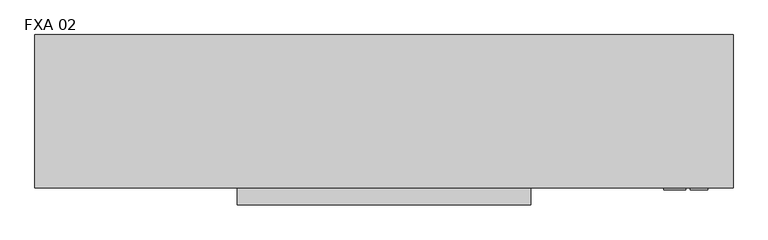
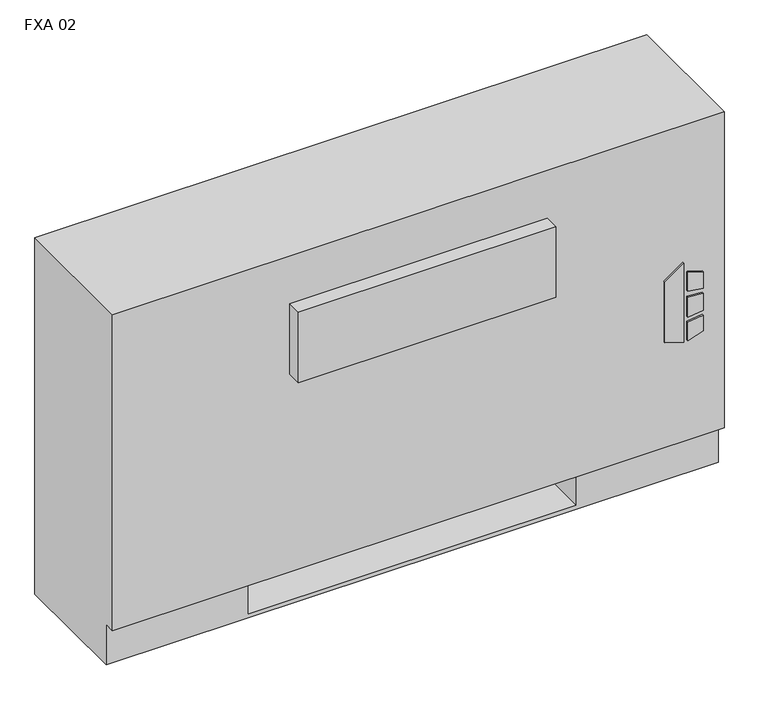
"""IFC4 building model written with IfcOpenShell, lengths in millimetres: proxy geometry, Vertical_Fan_Coil_Unit_-_FXA_-_IEC_-_4-Pipe_FS-FR_RH_2022 : FXA 02."""

from ifc_helpers import new_model, si_unit, point, frame, frame_2d, origin, place, context, project, spatial, polyline, circle_curve, trimmed, segment, composite_curve, outline, extrude, source, transform, mapped, element, save
from ifc_brep_helpers import plane_surface, revolved_surface, advanced_brep


def fxa_02_4a2c4ee7(model_context):
    return source(origin(), model_context, "Body", "SolidModel", [
        extrude(outline(polyline([(263.9480703, 569.9868862), (254.0, 602.1602728), (396.1709244, 602.1602728), (373.1489183, 569.9868862), (263.9480703, 569.9868862)])), frame((0.0, 12.7, 0.0), z_axis=(0.0, 1.0, 0.0), x_axis=(0.0, 0.0, 1.0)), (0.0, 0.0, 1.0), 3.175),
        extrude(outline(polyline([(342.9473557, 608.9186058), (339.7449632, 635.0), (368.9738042, 635.0), (377.0382193, 608.9186058), (342.9473557, 608.9186058)])), frame((0.0, 12.7, 0.0), z_axis=(0.0, 1.0, 0.0), x_axis=(0.0, 0.0, 1.0)), (0.0, 0.0, 1.0), 3.175),
        extrude(outline(polyline([(291.0838288, 635.0), (287.4183279, 608.9186058), (254.0, 608.9186058), (262.6342372, 635.0), (291.0838288, 635.0)])), frame((0.0, 12.7, 0.0), z_axis=(0.0, 1.0, 0.0), x_axis=(0.0, 0.0, 1.0)), (0.0, 0.0, 1.0), 3.175),
        extrude(outline(polyline([(330.3989903, 635.0), (332.6808166, 608.9186058), (296.7432681, 608.9186058), (299.4845331, 635.0), (330.3989903, 635.0)])), frame((0.0, 12.7, 0.0), z_axis=(0.0, 1.0, 0.0), x_axis=(0.0, 0.0, 1.0)), (0.0, 0.0, 1.0), 3.175),
        extrude(outline(polyline([(-247.65, 81.534), (-247.65, 223.266), (-127.0, 223.266), (-127.0, 81.534), (-247.65, 81.534)])), frame((0.0, 0.0, 327.025), z_axis=(0.0, 0.0, 1.0), x_axis=(1.0, 0.0, 0.0)), (0.0, 0.0, 1.0), 260.35),
        extrude(outline(composite_curve([segment(trimmed(circle_curve(frame_2d((495.3, 130.175)), 9.525), [point((485.775, 130.175))], [point((504.825, 130.175))], False, "CARTESIAN"), True, "CONTINUOUS"), segment(trimmed(circle_curve(frame_2d((495.3, 130.175)), 9.525), [point((504.825, 130.175))], [point((485.775, 130.175))], False, "CARTESIAN"), True, "CONTINUOUS")], self_intersect=False)), frame((0.0, 0.0, 101.6), z_axis=(0.0, 0.0, 1.0), x_axis=(1.0, 0.0, 0.0)), (0.0, 0.0, 1.0), 25.4),
        extrude(outline(polyline([(596.9, 196.85), (596.9, 63.5), (431.8, 63.5), (431.8, 196.85), (596.9, 196.85)])), frame((0.0, 0.0, 127.0), z_axis=(0.0, 0.0, 1.0), x_axis=(1.0, 0.0, 0.0)), (0.0, 0.0, 1.0), 50.8),
        extrude(outline(polyline([(371.475, -9.525), (-66.675, -9.525), (-66.675, 15.875), (371.475, 15.875), (371.475, -9.525)])), frame((0.0, 0.0, 428.625), z_axis=(0.0, 0.0, 1.0), x_axis=(1.0, 0.0, 0.0)), (0.0, 0.0, 1.0), 127.0),
        extrude(outline(composite_curve([segment(trimmed(circle_curve(frame_2d((117.475, 472.44)), 7.9375), [point((117.475, 480.3775))], [point((117.475, 464.5025))], False, "CARTESIAN"), True, "CONTINUOUS"), segment(trimmed(circle_curve(frame_2d((117.475, 472.44)), 7.9375), [point((117.475, 464.5025))], [point((117.475, 480.3775))], False, "CARTESIAN"), True, "CONTINUOUS")], self_intersect=False)), frame((431.8, 0.0, 0.0), z_axis=(1.0, 0.0, 0.0), x_axis=(0.0, 1.0, 0.0)), (0.0, 0.0, 1.0), 50.8),
        extrude(outline(composite_curve([segment(trimmed(circle_curve(frame_2d((164.0586, 445.897)), 7.9375), [point((164.0586, 453.8345))], [point((164.0586, 437.9595))], False, "CARTESIAN"), True, "CONTINUOUS"), segment(trimmed(circle_curve(frame_2d((164.0586, 445.897)), 7.9375), [point((164.0586, 437.9595))], [point((164.0586, 453.8345))], False, "CARTESIAN"), True, "CONTINUOUS")], self_intersect=False)), frame((431.8, 0.0, 0.0), z_axis=(1.0, 0.0, 0.0), x_axis=(0.0, 1.0, 0.0)), (0.0, 0.0, 1.0), 50.8),
        extrude(outline(composite_curve([segment(trimmed(circle_curve(frame_2d((130.175, 554.99)), 7.9502), [point((130.175, 562.9402))], [point((130.175, 547.0398))], False, "CARTESIAN"), True, "CONTINUOUS"), segment(trimmed(circle_curve(frame_2d((130.175, 554.99)), 7.9502), [point((130.175, 547.0398))], [point((130.175, 562.9402))], False, "CARTESIAN"), True, "CONTINUOUS")], self_intersect=False)), frame((431.8, 0.0, 0.0), z_axis=(1.0, 0.0, 0.0), x_axis=(0.0, 1.0, 0.0)), (0.0, 0.0, 1.0), 50.8),
        extrude(outline(composite_curve([segment(trimmed(circle_curve(frame_2d((53.975, 416.56)), 7.9502), [point((53.975, 424.5102))], [point((53.975, 408.6098))], False, "CARTESIAN"), True, "CONTINUOUS"), segment(trimmed(circle_curve(frame_2d((53.975, 416.56)), 7.9502), [point((53.975, 408.6098))], [point((53.975, 424.5102))], False, "CARTESIAN"), True, "CONTINUOUS")], self_intersect=False)), frame((431.8, 0.0, 0.0), z_axis=(1.0, 0.0, 0.0), x_axis=(0.0, 1.0, 0.0)), (0.0, 0.0, 1.0), 50.8),
        advanced_brep(
        [(673.1, 244.475, 641.35), (-368.3, 244.475, 641.35), (-368.3, 15.875, 641.35), (673.1, 15.875, 641.35), (-368.3, 244.475, 0.0), (673.1, 244.475, 0.0), (673.1, 34.925, 0.0), (-368.3, 34.925, 0.0), (431.8, 244.475, 73.025), (660.4, 244.475, 73.025), (660.4, 244.475, 628.65), (431.8, 244.475, 628.65), (431.8, 244.475, 414.8650565), (460.375, 244.475, 414.8650565), (460.375, 244.475, 385.2349435), (431.8, 244.475, 385.2349435), (431.8, 244.475, 287.3375), (460.375, 244.475, 287.3375), (460.375, 244.475, 258.7625), (431.8, 244.475, 258.7625), (431.8, 244.475, 141.2875), (460.375, 244.475, 141.2875), (460.375, 244.475, 112.7125), (431.8, 244.475, 112.7125), (-127.0, 244.475, 628.65), (-355.6, 244.475, 628.65), (-355.6, 244.475, 73.025), (-127.0, 244.475, 73.025), (-127.0, 244.475, 112.7125), (-155.575, 244.475, 112.7125), (-155.575, 244.475, 141.2875), (-127.0, 244.475, 141.2875), (-127.0, 244.475, 258.7625), (-155.575, 244.475, 258.7625), (-155.575, 244.475, 287.3375), (-127.0, 244.475, 287.3375), (-127.0, 244.475, 385.2349435), (-155.575, 244.475, 385.2349435), (-155.575, 244.475, 414.8650565), (-127.0, 244.475, 414.8650565), (450.0626, 244.475, 127.0), (438.9374, 244.475, 127.0), (450.0626, 244.475, 400.05), (438.9374, 244.475, 400.05), (450.0626, 244.475, 273.05), (438.9374, 244.475, 273.05), (-134.1374, 244.475, 127.0), (-145.2626, 244.475, 127.0), (-134.1374, 244.475, 273.05), (-145.2626, 244.475, 273.05), (-134.1374, 244.475, 400.05), (-145.2626, 244.475, 400.05), (-368.3, 34.925, 73.025), (-368.3, 15.875, 73.025), (673.1, 15.875, 73.025), (673.1, 34.925, 73.025), (-127.0, 34.925, 73.025), (-127.0, 219.075, 73.025), (431.8, 219.075, 73.025), (431.8, 34.925, 73.025), (431.8, 34.925, 6.35), (-127.0, 34.925, 6.35), (431.8, 41.275, 628.65), (660.4, 41.275, 628.65), (660.4, 41.275, 73.025), (431.8, 41.275, 73.025), (-127.0, 41.275, 628.65), (-127.0, 41.275, 73.025), (-355.6, 41.275, 73.025), (-355.6, 41.275, 628.65), (431.8, 219.075, 73.025), (431.8, 238.125, 112.7125), (431.8, 238.125, 141.2875), (431.8, 238.125, 258.7625), (431.8, 238.125, 287.3375), (431.8, 238.125, 385.2349435), (431.8, 238.125, 414.8650565), (-127.0, 219.075, 73.025), (-127.0, 238.125, 414.8650565), (-127.0, 238.125, 385.2349435), (-127.0, 238.125, 287.3375), (-127.0, 238.125, 258.7625), (-127.0, 238.125, 141.2875), (-127.0, 238.125, 112.7125), (-127.0, 219.075, 6.35), (431.8, 219.075, 6.35), (460.375, 238.125, 112.7125), (460.375, 238.125, 141.2875), (438.9374, 238.125, 127.0), (450.0626, 238.125, 127.0), (460.375, 238.125, 258.7625), (460.375, 238.125, 287.3375), (438.9374, 238.125, 273.05), (450.0626, 238.125, 273.05), (460.375, 238.125, 385.2349435), (460.375, 238.125, 414.8650565), (438.9374, 238.125, 400.05), (450.0626, 238.125, 400.05), (-155.575, 238.125, 141.2875), (-155.575, 238.125, 112.7125), (-145.2626, 238.125, 127.0), (-134.1374, 238.125, 127.0), (-155.575, 238.125, 287.3375), (-155.575, 238.125, 258.7625), (-145.2626, 238.125, 273.05), (-134.1374, 238.125, 273.05), (-155.575, 238.125, 414.8650565), (-155.575, 238.125, 385.2349435), (-145.2626, 238.125, 400.05), (-134.1374, 238.125, 400.05)],
        [
            (0, 1),
            (1, 2),
            (2, 3),
            (3, 0),
            (4, 5),
            (5, 6),
            (6, 7),
            (7, 4),
            (0, 5),
            (4, 1),
            (8, 9),
            (9, 10),
            (10, 11),
            (11, 12),
            (12, 13),
            (13, 14),
            (14, 15),
            (15, 16),
            (16, 17),
            (17, 18),
            (18, 19),
            (19, 20),
            (20, 21),
            (21, 22),
            (22, 23),
            (23, 8),
            (24, 25),
            (25, 26),
            (26, 27),
            (27, 28),
            (28, 29),
            (29, 30),
            (30, 31),
            (31, 32),
            (32, 33),
            (33, 34),
            (34, 35),
            (35, 36),
            (36, 37),
            (37, 38),
            (38, 39),
            (39, 24),
            (40, 41, circle_curve(frame((444.5, 244.475, 127.0), z_axis=(0.0, -1.0, 0.0), x_axis=(-1.0, 0.0, 0.0)), 5.5626)),
            (41, 40, circle_curve(frame((444.5, 244.475, 127.0), z_axis=(0.0, -1.0, 0.0), x_axis=(-1.0, 0.0, 0.0)), 5.5626)),
            (42, 43, circle_curve(frame((444.5, 244.475, 400.05), z_axis=(0.0, -1.0, 0.0), x_axis=(-1.0, 0.0, 0.0)), 5.5626)),
            (43, 42, circle_curve(frame((444.5, 244.475, 400.05), z_axis=(0.0, -1.0, 0.0), x_axis=(-1.0, 0.0, 0.0)), 5.5626)),
            (44, 45, circle_curve(frame((444.5, 244.475, 273.05), z_axis=(0.0, -1.0, 0.0), x_axis=(-1.0, 0.0, 0.0)), 5.5626)),
            (45, 44, circle_curve(frame((444.5, 244.475, 273.05), z_axis=(0.0, -1.0, 0.0), x_axis=(-1.0, 0.0, 0.0)), 5.5626)),
            (46, 47, circle_curve(frame((-139.7, 244.475, 127.0), z_axis=(0.0, -1.0, 0.0), x_axis=(-1.0, 0.0, 0.0)), 5.5626)),
            (47, 46, circle_curve(frame((-139.7, 244.475, 127.0), z_axis=(0.0, -1.0, 0.0), x_axis=(-1.0, 0.0, 0.0)), 5.5626)),
            (48, 49, circle_curve(frame((-139.7, 244.475, 273.05), z_axis=(0.0, -1.0, 0.0), x_axis=(-1.0, 0.0, 0.0)), 5.5626)),
            (49, 48, circle_curve(frame((-139.7, 244.475, 273.05), z_axis=(0.0, -1.0, 0.0), x_axis=(-1.0, 0.0, 0.0)), 5.5626)),
            (50, 51, circle_curve(frame((-139.7, 244.475, 400.05), z_axis=(0.0, -1.0, 0.0), x_axis=(-1.0, 0.0, 0.0)), 5.5626)),
            (51, 50, circle_curve(frame((-139.7, 244.475, 400.05), z_axis=(0.0, -1.0, 0.0), x_axis=(-1.0, 0.0, 0.0)), 5.5626)),
            (7, 52),
            (52, 53),
            (53, 2),
            (53, 54),
            (54, 3),
            (54, 55),
            (55, 6),
            (52, 56),
            (56, 57),
            (57, 58),
            (58, 59),
            (59, 55),
            (59, 60),
            (60, 61),
            (61, 56),
            (62, 63),
            (63, 64),
            (64, 65),
            (65, 62),
            (66, 67),
            (67, 68),
            (68, 69),
            (69, 66),
            (65, 70),
            (70, 8),
            (23, 71),
            (71, 72),
            (72, 20),
            (19, 73),
            (73, 74),
            (74, 16),
            (15, 75),
            (75, 76),
            (76, 12),
            (11, 62),
            (64, 9),
            (63, 10),
            (69, 25),
            (24, 66),
            (68, 26),
            (67, 77),
            (77, 27),
            (39, 78),
            (78, 79),
            (79, 36),
            (35, 80),
            (80, 81),
            (81, 32),
            (31, 82),
            (82, 83),
            (83, 28),
            (57, 84),
            (84, 85),
            (85, 58),
            (85, 60),
            (84, 61),
            (71, 86),
            (86, 87),
            (87, 72),
            (88, 89, circle_curve(frame((444.5, 238.125, 127.0), z_axis=(0.0, 1.0, 0.0), x_axis=(-1.0, 0.0, 0.0)), 5.5626)),
            (89, 88, circle_curve(frame((444.5, 238.125, 127.0), z_axis=(0.0, 1.0, 0.0), x_axis=(-1.0, 0.0, 0.0)), 5.5626)),
            (73, 90),
            (90, 91),
            (91, 74),
            (92, 93, circle_curve(frame((444.5, 238.125, 273.05), z_axis=(0.0, 1.0, 0.0), x_axis=(-1.0, 0.0, 0.0)), 5.5626)),
            (93, 92, circle_curve(frame((444.5, 238.125, 273.05), z_axis=(0.0, 1.0, 0.0), x_axis=(-1.0, 0.0, 0.0)), 5.5626)),
            (75, 94),
            (94, 95),
            (95, 76),
            (96, 97, circle_curve(frame((444.5, 238.125, 400.05), z_axis=(0.0, 1.0, 0.0), x_axis=(-1.0, 0.0, 0.0)), 5.5626)),
            (97, 96, circle_curve(frame((444.5, 238.125, 400.05), z_axis=(0.0, 1.0, 0.0), x_axis=(-1.0, 0.0, 0.0)), 5.5626)),
            (98, 99),
            (99, 83),
            (82, 98),
            (100, 101, circle_curve(frame((-139.7, 238.125, 127.0), z_axis=(0.0, 1.0, 0.0), x_axis=(-1.0, 0.0, 0.0)), 5.5626)),
            (101, 100, circle_curve(frame((-139.7, 238.125, 127.0), z_axis=(0.0, 1.0, 0.0), x_axis=(-1.0, 0.0, 0.0)), 5.5626)),
            (102, 103),
            (103, 81),
            (80, 102),
            (104, 105, circle_curve(frame((-139.7, 238.125, 273.05), z_axis=(0.0, 1.0, 0.0), x_axis=(-1.0, 0.0, 0.0)), 5.5626)),
            (105, 104, circle_curve(frame((-139.7, 238.125, 273.05), z_axis=(0.0, 1.0, 0.0), x_axis=(-1.0, 0.0, 0.0)), 5.5626)),
            (106, 107),
            (107, 79),
            (78, 106),
            (108, 109, circle_curve(frame((-139.7, 238.125, 400.05), z_axis=(0.0, 1.0, 0.0), x_axis=(-1.0, 0.0, 0.0)), 5.5626)),
            (109, 108, circle_curve(frame((-139.7, 238.125, 400.05), z_axis=(0.0, 1.0, 0.0), x_axis=(-1.0, 0.0, 0.0)), 5.5626)),
            (87, 21),
            (86, 22),
            (91, 17),
            (90, 18),
            (95, 13),
            (94, 14),
            (30, 98),
            (99, 29),
            (34, 102),
            (103, 33),
            (38, 106),
            (107, 37),
            (88, 41),
            (40, 89),
            (96, 43),
            (42, 97),
            (92, 45),
            (44, 93),
            (100, 47),
            (46, 101),
            (104, 49),
            (48, 105),
            (108, 51),
            (50, 109),
        ],
        [
            plane_surface(frame((-368.3, 244.475, 641.35), z_axis=(0.0, 0.0, 1.0), x_axis=(-1.0, 0.0, 0.0))),
            plane_surface(frame((-368.3, 244.475, 0.0), z_axis=(0.0, 0.0, -1.0), x_axis=(1.0, 0.0, 0.0))),
            plane_surface(frame((673.1, 244.475, 641.35), z_axis=(0.0, 1.0, 0.0), x_axis=(0.0, 0.0, -1.0))),
            plane_surface(frame((-368.3, 244.475, 641.35), z_axis=(-1.0, 0.0, 0.0), x_axis=(0.0, 0.0, -1.0))),
            plane_surface(frame((-368.3, 15.875, 641.35), z_axis=(0.0, -1.0, 0.0), x_axis=(0.0, 0.0, -1.0))),
            plane_surface(frame((673.1, 15.875, 641.35), z_axis=(1.0, 0.0, 0.0), x_axis=(0.0, 0.0, -1.0))),
            plane_surface(frame((-368.3, 15.875, 73.025), z_axis=(0.0, 0.0, -1.0), x_axis=(1.0, 0.0, 0.0))),
            plane_surface(frame((-368.3, 34.925, 73.025), z_axis=(0.0, -1.0, 0.0), x_axis=(1.0, 0.0, 0.0))),
            plane_surface(frame((431.8, 41.275, 628.65), z_axis=(0.0, 1.0, 0.0), x_axis=(0.0, 0.0, -1.0))),
            plane_surface(frame((431.8, 41.275, 628.65), z_axis=(1.0, 0.0, 0.0), x_axis=(0.0, 1.0, 0.0))),
            plane_surface(frame((431.8, 41.275, 73.025), z_axis=(0.0, 0.0, 1.0), x_axis=(0.0, 1.0, 0.0))),
            plane_surface(frame((660.4, 41.275, 73.025), z_axis=(-1.0, 0.0, 0.0), x_axis=(0.0, 1.0, 0.0))),
            plane_surface(frame((660.4, 41.275, 628.65), z_axis=(0.0, 0.0, -1.0), x_axis=(0.0, 1.0, 0.0))),
            plane_surface(frame((-127.0, 41.275, 628.65), z_axis=(0.0, 0.0, -1.0), x_axis=(0.0, 1.0, 0.0))),
            plane_surface(frame((-355.6, 41.275, 628.65), z_axis=(1.0, 0.0, 0.0), x_axis=(0.0, 1.0, 0.0))),
            plane_surface(frame((-355.6, 41.275, 73.025), z_axis=(0.0, 0.0, 1.0), x_axis=(0.0, 1.0, 0.0))),
            plane_surface(frame((-127.0, 41.275, 73.025), z_axis=(-1.0, 0.0, 0.0), x_axis=(0.0, 1.0, 0.0))),
            plane_surface(frame((431.8, 219.075, 73.025), z_axis=(0.0, -1.0, 0.0), x_axis=(0.0, 0.0, -1.0))),
            plane_surface(frame((431.8, 219.075, 73.025), z_axis=(-1.0, 0.0, 0.0), x_axis=(0.0, -1.0, 0.0))),
            plane_surface(frame((431.8, 219.075, 6.35), z_axis=(0.0, 0.0, 1.0), x_axis=(0.0, -1.0, 0.0))),
            plane_surface(frame((-127.0, 219.075, 6.35), z_axis=(1.0, 0.0, 0.0), x_axis=(0.0, -1.0, 0.0))),
            plane_surface(frame((460.375, 238.125, 141.2875), z_axis=(0.0, -1.0, 0.0), x_axis=(-1.0, 0.0, 0.0))),
            plane_surface(frame((431.8, 244.475, 141.2875), z_axis=(0.0, 0.0, 1.0), x_axis=(0.0, -1.0, 0.0))),
            plane_surface(frame((460.375, 244.475, 141.2875), z_axis=(1.0, 0.0, 0.0), x_axis=(0.0, -1.0, 0.0))),
            plane_surface(frame((460.375, 244.475, 112.7125), z_axis=(0.0, 0.0, -1.0), x_axis=(0.0, -1.0, 0.0))),
            plane_surface(frame((431.8, 244.475, 287.3375), z_axis=(0.0, 0.0, 1.0), x_axis=(0.0, -1.0, 0.0))),
            plane_surface(frame((460.375, 244.475, 287.3375), z_axis=(1.0, 0.0, 0.0), x_axis=(0.0, -1.0, 0.0))),
            plane_surface(frame((460.375, 244.475, 258.7625), z_axis=(0.0, 0.0, -1.0), x_axis=(0.0, -1.0, 0.0))),
            plane_surface(frame((431.8, 244.475, 414.8650565), z_axis=(0.0, 0.0, 1.0), x_axis=(0.0, -1.0, 0.0))),
            plane_surface(frame((460.375, 244.475, 414.8650565), z_axis=(1.0, 0.0, 0.0), x_axis=(0.0, -1.0, 0.0))),
            plane_surface(frame((460.375, 244.475, 385.2349435), z_axis=(0.0, 0.0, -1.0), x_axis=(0.0, -1.0, 0.0))),
            plane_surface(frame((-155.575, 244.475, 141.2875), z_axis=(0.0, 0.0, 1.0), x_axis=(0.0, -1.0, 0.0))),
            plane_surface(frame((-127.0, 244.475, 112.7125), z_axis=(0.0, 0.0, -1.0), x_axis=(0.0, -1.0, 0.0))),
            plane_surface(frame((-155.575, 244.475, 112.7125), z_axis=(-1.0, 0.0, 0.0), x_axis=(0.0, -1.0, 0.0))),
            plane_surface(frame((-155.575, 244.475, 287.3375), z_axis=(0.0, 0.0, 1.0), x_axis=(0.0, -1.0, 0.0))),
            plane_surface(frame((-127.0, 244.475, 258.7625), z_axis=(0.0, 0.0, -1.0), x_axis=(0.0, -1.0, 0.0))),
            plane_surface(frame((-155.575, 244.475, 258.7625), z_axis=(-1.0, 0.0, 0.0), x_axis=(0.0, -1.0, 0.0))),
            plane_surface(frame((-155.575, 244.475, 414.8650565), z_axis=(0.0, 0.0, 1.0), x_axis=(0.0, -1.0, 0.0))),
            plane_surface(frame((-127.0, 244.475, 385.2349435), z_axis=(0.0, 0.0, -1.0), x_axis=(0.0, -1.0, 0.0))),
            plane_surface(frame((-155.575, 244.475, 385.2349435), z_axis=(-1.0, 0.0, 0.0), x_axis=(0.0, -1.0, 0.0))),
            revolved_surface(polyline([(438.9374, 238.125, 127.0), (438.9374, 244.475, 127.0)]), (444.5, 244.475, 127.0), (0.0, -1.0, 0.0)),
            revolved_surface(polyline([(438.9374, 238.125, 400.05), (438.9374, 244.475, 400.05)]), (444.5, 244.475, 400.05), (0.0, -1.0, 0.0)),
            revolved_surface(polyline([(438.9374, 238.125, 273.05), (438.9374, 244.475, 273.05)]), (444.5, 244.475, 273.05), (0.0, -1.0, 0.0)),
            revolved_surface(polyline([(-145.2626, 238.125, 127.0), (-145.2626, 244.475, 127.0)]), (-139.7, 244.475, 127.0), (0.0, -1.0, 0.0)),
            revolved_surface(polyline([(-145.2626, 238.125, 273.05), (-145.2626, 244.475, 273.05)]), (-139.7, 244.475, 273.05), (0.0, -1.0, 0.0)),
            revolved_surface(polyline([(-145.2626, 238.125, 400.05), (-145.2626, 244.475, 400.05)]), (-139.7, 244.475, 400.05), (0.0, -1.0, 0.0)),
        ],
        [
            (0, [[1, 2, 3, 4]]),
            (1, [[5, 6, 7, 8]]),
            (2, [[-1, 9, -5, 10], [11, 12, 13, 14, 15, 16, 17, 18, 19, 20, 21, 22, 23, 24, 25, 26], [27, 28, 29, 30, 31, 32, 33, 34, 35, 36, 37, 38, 39, 40, 41, 42], [43, 44], [45, 46], [47, 48], [49, 50], [51, 52], [53, 54]]),
            (3, [[-2, -10, -8, 55, 56, 57]]),
            (4, [[-3, -57, 58, 59]]),
            (5, [[-4, -59, 60, 61, -6, -9]]),
            (6, [[-56, 62, 63, 64, 65, 66, -60, -58]]),
            (7, [[-7, -61, -66, 67, 68, 69, -62, -55]]),
            (8, [[70, 71, 72, 73]]),
            (8, [[74, 75, 76, 77]]),
            (9, [[-73, 78, 79, -26, 80, 81, 82, -22, 83, 84, 85, -18, 86, 87, 88, -14, 89]]),
            (10, [[-72, 90, -11, -79, -78]]),
            (11, [[-71, 91, -12, -90]]),
            (12, [[-70, -89, -13, -91]]),
            (13, [[-77, 92, -27, 93]]),
            (14, [[-76, 94, -28, -92]]),
            (15, [[-75, 95, 96, -29, -94]]),
            (16, [[-74, -93, -42, 97, 98, 99, -38, 100, 101, 102, -34, 103, 104, 105, -30, -96, -95]]),
            (17, [[-64, 106, 107, 108]]),
            (18, [[-108, 109, -67, -65]]),
            (19, [[-107, 110, -68, -109]]),
            (20, [[-106, -63, -69, -110]]),
            (21, [[111, 112, 113, -81], [114, 115]]),
            (21, [[116, 117, 118, -84], [119, 120]]),
            (21, [[121, 122, 123, -87], [124, 125]]),
            (21, [[126, 127, -104, 128], [129, 130]]),
            (21, [[131, 132, -101, 133], [134, 135]]),
            (21, [[136, 137, -98, 138], [139, 140]]),
            (22, [[-113, 141, -23, -82]]),
            (23, [[-112, 142, -24, -141]]),
            (24, [[-111, -80, -25, -142]]),
            (25, [[-118, 143, -19, -85]]),
            (26, [[-117, 144, -20, -143]]),
            (27, [[-116, -83, -21, -144]]),
            (28, [[-123, 145, -15, -88]]),
            (29, [[-122, 146, -16, -145]]),
            (30, [[-121, -86, -17, -146]]),
            (31, [[-128, -103, -33, 147]]),
            (32, [[-127, 148, -31, -105]]),
            (33, [[-126, -147, -32, -148]]),
            (34, [[-133, -100, -37, 149]]),
            (35, [[-132, 150, -35, -102]]),
            (36, [[-131, -149, -36, -150]]),
            (37, [[-138, -97, -41, 151]]),
            (38, [[-137, 152, -39, -99]]),
            (39, [[-136, -151, -40, -152]]),
            (40, [[153, -43, 154, -114]]),
            (40, [[-153, -115, -154, -44]]),
            (41, [[155, -45, 156, -124]]),
            (41, [[-155, -125, -156, -46]]),
            (42, [[157, -47, 158, -119]]),
            (42, [[-157, -120, -158, -48]]),
            (43, [[159, -49, 160, -129]]),
            (43, [[-159, -130, -160, -50]]),
            (44, [[161, -51, 162, -134]]),
            (44, [[-161, -135, -162, -52]]),
            (45, [[163, -53, 164, -139]]),
            (45, [[-163, -140, -164, -54]]),
        ],
    ),
    ])


if __name__ == "__main__":
    model = new_model("IFC4")
    model_context = context("Model", 3, world=origin())
    ifc_project = project(units=[si_unit("LENGTHUNIT", "METRE", prefix="MILLI")], contexts=[model_context])
    site = spatial("IfcSite", under=ifc_project)
    building = spatial("IfcBuilding", under=site)
    placement = place(None, origin())
    fxa_02_shape = fxa_02_4a2c4ee7(model_context)
    element("IfcBuildingElementProxy", 1, Name="Vertical_Fan_Coil_Unit_-_FXA_-_IEC_-_4-Pipe_FS-FR_RH_2022 : FXA 02", ObjectType="Vertical_Fan_Coil_Unit_-_FXA_-_IEC_-_4-Pipe_FS-FR_RH_2022 : FXA 02", at=placement, inside=building, context=model_context, shape_type="MappedRepresentation", body=[
        mapped(fxa_02_shape, transform((0.0, 0.0, 0.0), x_axis=(1.0, 0.0, 0.0), y_axis=(0.0, 1.0, 0.0), z_axis=(0.0, 0.0, 1.0))),
    ])
    save(model, "model.ifc")
